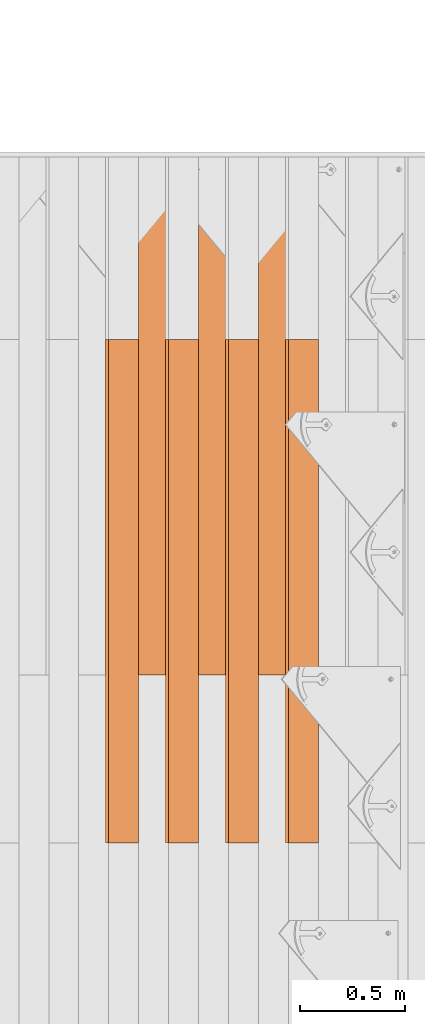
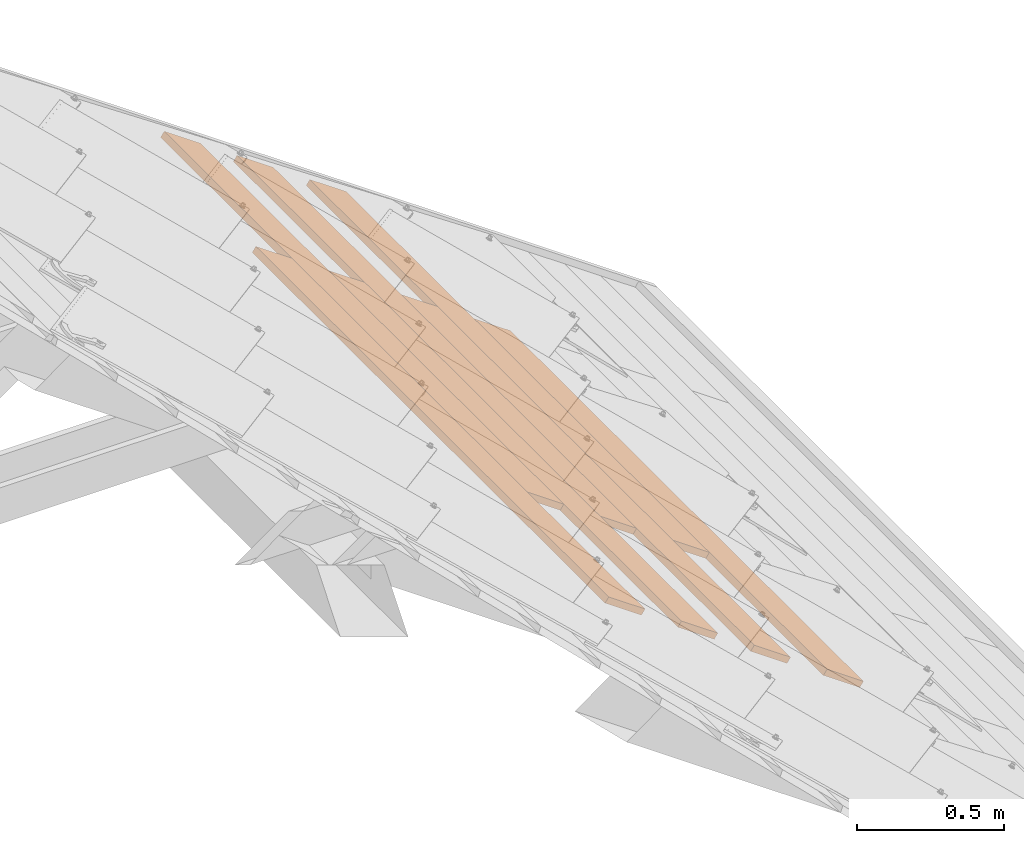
# One storey, part 67 of 133: 7 proxies, 1 element without a shape of its own.
"""IFC2X3 building model written with IfcOpenShell, lengths in millimetres."""

from ifc_helpers import new_model, entity, si_unit, converted_unit, derived_unit, direction, frame, frame_2d, origin, place, context, subcontext, project, spatial, rectangle, extrude, source, transform, mapped, material, type_object, type_shapes, element, aggregate, save


model = new_model("IFC2X3")

# Units and contexts
model_context = context("Model", 3, precision=0.01, world=origin(), true_north=direction((6.12303176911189e-17, 1.0)))
body_context = subcontext(model_context, "Body", "Model", "MODEL_VIEW")
ifc_project = project(units=[si_unit("LENGTHUNIT", "METRE", prefix="MILLI"), si_unit("AREAUNIT", "SQUARE_METRE"), si_unit("VOLUMEUNIT", "CUBIC_METRE"), converted_unit("PLANEANGLEUNIT", "DEGREE", entity("IfcRatioMeasure", 0.0174532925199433), si_unit("PLANEANGLEUNIT", "RADIAN"), dimensions=[0, 0, 0, 0, 0, 0, 0]), si_unit("MASSUNIT", "GRAM", prefix="KILO"), derived_unit("MASSDENSITYUNIT", [(si_unit("MASSUNIT", "GRAM", prefix="KILO"), 1), (si_unit("LENGTHUNIT", "METRE"), -3)]), si_unit("TIMEUNIT", "SECOND"), si_unit("FREQUENCYUNIT", "HERTZ"), si_unit("THERMODYNAMICTEMPERATUREUNIT", "DEGREE_CELSIUS"), derived_unit("THERMALTRANSMITTANCEUNIT", [(si_unit("MASSUNIT", "GRAM", prefix="KILO"), 1), (si_unit("THERMODYNAMICTEMPERATUREUNIT", "KELVIN"), -1), (si_unit("TIMEUNIT", "SECOND"), -3)]), derived_unit("VOLUMETRICFLOWRATEUNIT", [(si_unit("LENGTHUNIT", "METRE"), 3), (si_unit("TIMEUNIT", "SECOND"), -1)]), si_unit("ELECTRICCURRENTUNIT", "AMPERE"), si_unit("ELECTRICVOLTAGEUNIT", "VOLT"), si_unit("POWERUNIT", "WATT"), si_unit("FORCEUNIT", "NEWTON", prefix="KILO"), si_unit("ILLUMINANCEUNIT", "LUX"), si_unit("LUMINOUSFLUXUNIT", "LUMEN"), si_unit("LUMINOUSINTENSITYUNIT", "CANDELA"), derived_unit("USERDEFINED", [(si_unit("MASSUNIT", "GRAM", prefix="KILO"), -1), (si_unit("LENGTHUNIT", "METRE"), -2), (si_unit("TIMEUNIT", "SECOND"), 3), (si_unit("LUMINOUSFLUXUNIT", "LUMEN"), 1)]), derived_unit("LINEARVELOCITYUNIT", [(si_unit("LENGTHUNIT", "METRE"), 1), (si_unit("TIMEUNIT", "SECOND"), -1)]), si_unit("PRESSUREUNIT", "PASCAL"), derived_unit("USERDEFINED", [(si_unit("LENGTHUNIT", "METRE"), -2), (si_unit("MASSUNIT", "GRAM", prefix="KILO"), 1), (si_unit("TIMEUNIT", "SECOND"), -2)])], contexts=[model_context])

# Site, building, storey
site_placement = place(None, origin())
site = spatial("IfcSite", under=ifc_project, at=site_placement, Name="Default", CompositionType="ELEMENT")
building_placement = place(site_placement, origin())
building = spatial("IfcBuilding", under=site, at=building_placement, CompositionType="ELEMENT")
storey_placement = place(building_placement, origin())
storey = spatial("IfcBuildingStorey", under=building, at=storey_placement, Name="Level 1", CompositionType="ELEMENT", Elevation=0.0)

# Assembly, proxies
assembly_placement = place(storey_placement, origin())
assembly = element("IfcElementAssembly", 1, at=assembly_placement, inside=storey, Name="Structural Framing Assembly:Roof Construction Assembly", ObjectType="Structural Framing Assembly:Roof Construction Assembly", AssemblyPlace="NOTDEFINED", PredefinedType="USERDEFINED")
ifc_material = material(Name="Wood - Generic - Wood For Showcase")
building_element_proxy_type_1 = type_object("IfcBuildingElementProxyType", Name="Structural Framing 15", PredefinedType="NOTDEFINED", material=ifc_material)
shared_shape_1 = source(origin(), body_context, "Body", "SweptSolid", [
    extrude(rectangle(XDim=24.9999999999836, YDim=174.344679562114, at=frame_2d((2.97539770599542e-13, -4.2632564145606e-14), x_axis=(1.0, 0.0))), frame((1285.35601305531, 1525.55080214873, 2760.23940055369), z_axis=(0.0, 1.0, 0.0), x_axis=(0.573576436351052, 0.0, 0.819152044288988)), (0.0, 0.0, 1.0), 2399.99999999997),
])
type_shapes(building_element_proxy_type_1, [shared_shape_1])
proxy_1_placement = place(assembly_placement, frame((1856.59240876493, -870.0, -1300.0)))
proxy_1 = element("IfcBuildingElementProxy", 2, at=proxy_1_placement, type_object=building_element_proxy_type_1, material=ifc_material, Name="Structural Framing 220:Structural Framing 15", ObjectType="Structural Framing 220:Structural Framing 15", context=body_context, shape_type="MappedRepresentation", body=[
    mapped(shared_shape_1, transform((0.0, 0.0, 0.0), scale=1.0)),
])
building_element_proxy_type_2 = type_object("IfcBuildingElementProxyType", Name="Structural Framing 15", PredefinedType="NOTDEFINED", material=ifc_material)
shared_shape_2 = source(origin(), body_context, "Body", "SweptSolid", [
    extrude(rectangle(XDim=24.9999999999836, YDim=174.344679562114, at=frame_2d((3.73923114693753e-13, 6.3948846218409e-14), x_axis=(1.0, 0.0))), frame((1285.35601305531, 1455.55080214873, 2760.23940055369), z_axis=(0.0, 1.0, 0.0), x_axis=(0.573576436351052, 0.0, 0.819152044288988)), (0.0, 0.0, 1.0), 2469.99999999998),
])
type_shapes(building_element_proxy_type_2, [shared_shape_2])
proxy_2_placement = place(assembly_placement, frame((1999.40720943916, 0.0, -1400.0)))
proxy_2 = element("IfcBuildingElementProxy", 3, at=proxy_2_placement, type_object=building_element_proxy_type_2, material=ifc_material, Name="Structural Framing 225:Structural Framing 15", ObjectType="Structural Framing 225:Structural Framing 15", context=body_context, shape_type="MappedRepresentation", body=[
    mapped(shared_shape_2, transform((0.0, 0.0, 0.0), scale=1.0)),
])
building_element_proxy_type_3 = type_object("IfcBuildingElementProxyType", Name="Structural Framing 15", PredefinedType="NOTDEFINED", material=ifc_material)
shared_shape_3 = source(origin(), body_context, "Body", "SweptSolid", [
    extrude(rectangle(XDim=24.9999999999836, YDim=174.344679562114, at=frame_2d((2.97539770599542e-13, -4.2632564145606e-14), x_axis=(1.0, 0.0))), frame((1285.35601305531, 1525.55080214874, 2760.23940055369), z_axis=(0.0, 1.0, 0.0), x_axis=(0.573576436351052, 0.0, 0.819152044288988)), (0.0, 0.0, 1.0), 2399.99999999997),
])
type_shapes(building_element_proxy_type_3, [shared_shape_3])
proxy_3_placement = place(assembly_placement, frame((2142.22201011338, -870.0, -1500.0)))
proxy_3 = element("IfcBuildingElementProxy", 4, at=proxy_3_placement, type_object=building_element_proxy_type_3, material=ifc_material, Name="Structural Framing 230:Structural Framing 15", ObjectType="Structural Framing 230:Structural Framing 15", context=body_context, shape_type="MappedRepresentation", body=[
    mapped(shared_shape_3, transform((0.0, 0.0, 0.0), scale=1.0)),
])
building_element_proxy_type_4 = type_object("IfcBuildingElementProxyType", Name="Structural Framing 15", PredefinedType="NOTDEFINED", material=ifc_material)
shared_shape_4 = source(origin(), body_context, "Body", "SweptSolid", [
    extrude(rectangle(XDim=24.9999999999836, YDim=174.344679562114, at=frame_2d((3.73923114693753e-13, 6.3948846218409e-14), x_axis=(1.0, 0.0))), frame((1285.35601305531, 1455.55080214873, 2760.23940055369), z_axis=(0.0, 1.0, 0.0), x_axis=(0.573576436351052, 0.0, 0.819152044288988)), (0.0, 0.0, 1.0), 2469.99999999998),
])
type_shapes(building_element_proxy_type_4, [shared_shape_4])
proxy_4_placement = place(assembly_placement, frame((2285.03681078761, 0.0, -1600.0)))
proxy_4 = element("IfcBuildingElementProxy", 5, at=proxy_4_placement, type_object=building_element_proxy_type_4, material=ifc_material, Name="Structural Framing 235:Structural Framing 15", ObjectType="Structural Framing 235:Structural Framing 15", context=body_context, shape_type="MappedRepresentation", body=[
    mapped(shared_shape_4, transform((0.0, 0.0, 0.0), scale=1.0)),
])
building_element_proxy_type_5 = type_object("IfcBuildingElementProxyType", Name="Structural Framing 15", PredefinedType="NOTDEFINED", material=ifc_material)
shared_shape_5 = source(origin(), body_context, "Body", "SweptSolid", [
    extrude(rectangle(XDim=24.9999999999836, YDim=174.344679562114, at=frame_2d((2.97539770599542e-13, -4.2632564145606e-14), x_axis=(1.0, 0.0))), frame((1285.35601305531, 1525.55080214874, 2760.23940055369), z_axis=(0.0, 1.0, 0.0), x_axis=(0.573576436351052, 0.0, 0.819152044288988)), (0.0, 0.0, 1.0), 2399.99999999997),
])
type_shapes(building_element_proxy_type_5, [shared_shape_5])
proxy_5_placement = place(assembly_placement, frame((2427.85161146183, -870.0, -1700.0)))
proxy_5 = element("IfcBuildingElementProxy", 6, at=proxy_5_placement, type_object=building_element_proxy_type_5, material=ifc_material, Name="Structural Framing 240:Structural Framing 15", ObjectType="Structural Framing 240:Structural Framing 15", context=body_context, shape_type="MappedRepresentation", body=[
    mapped(shared_shape_5, transform((0.0, 0.0, 0.0), scale=1.0)),
])
building_element_proxy_type_6 = type_object("IfcBuildingElementProxyType", Name="Structural Framing 15", PredefinedType="NOTDEFINED", material=ifc_material)
shared_shape_6 = source(origin(), body_context, "Body", "SweptSolid", [
    extrude(rectangle(XDim=24.9999999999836, YDim=174.344679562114, at=frame_2d((3.73923114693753e-13, 6.3948846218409e-14), x_axis=(1.0, 0.0))), frame((1285.35601305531, 1455.55080214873, 2760.23940055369), z_axis=(0.0, 1.0, 0.0), x_axis=(0.573576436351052, 0.0, 0.819152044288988)), (0.0, 0.0, 1.0), 2469.99999999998),
])
type_shapes(building_element_proxy_type_6, [shared_shape_6])
proxy_6_placement = place(assembly_placement, frame((2570.66641213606, 0.0, -1800.0)))
proxy_6 = element("IfcBuildingElementProxy", 7, at=proxy_6_placement, type_object=building_element_proxy_type_6, material=ifc_material, Name="Structural Framing 245:Structural Framing 15", ObjectType="Structural Framing 245:Structural Framing 15", context=body_context, shape_type="MappedRepresentation", body=[
    mapped(shared_shape_6, transform((0.0, 0.0, 0.0), scale=1.0)),
])
building_element_proxy_type_7 = type_object("IfcBuildingElementProxyType", Name="Structural Framing 15", PredefinedType="NOTDEFINED", material=ifc_material)
shared_shape_7 = source(origin(), body_context, "Body", "SweptSolid", [
    extrude(rectangle(XDim=24.9999999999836, YDim=174.344679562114, at=frame_2d((2.97539770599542e-13, -4.2632564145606e-14), x_axis=(1.0, 0.0))), frame((1285.35601305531, 1525.55080214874, 2760.23940055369), z_axis=(0.0, 1.0, 0.0), x_axis=(0.573576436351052, 0.0, 0.819152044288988)), (0.0, 0.0, 1.0), 2399.99999999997),
])
type_shapes(building_element_proxy_type_7, [shared_shape_7])
proxy_7_placement = place(assembly_placement, frame((2713.48121281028, -870.0, -1900.0)))
proxy_7 = element("IfcBuildingElementProxy", 8, at=proxy_7_placement, type_object=building_element_proxy_type_7, material=ifc_material, Name="Structural Framing 250:Structural Framing 15", ObjectType="Structural Framing 250:Structural Framing 15", context=body_context, shape_type="MappedRepresentation", body=[
    mapped(shared_shape_7, transform((0.0, 0.0, 0.0), scale=1.0)),
])
aggregate(assembly, [proxy_1, proxy_2, proxy_3, proxy_4, proxy_5, proxy_6, proxy_7])

save(model, "model.ifc")
